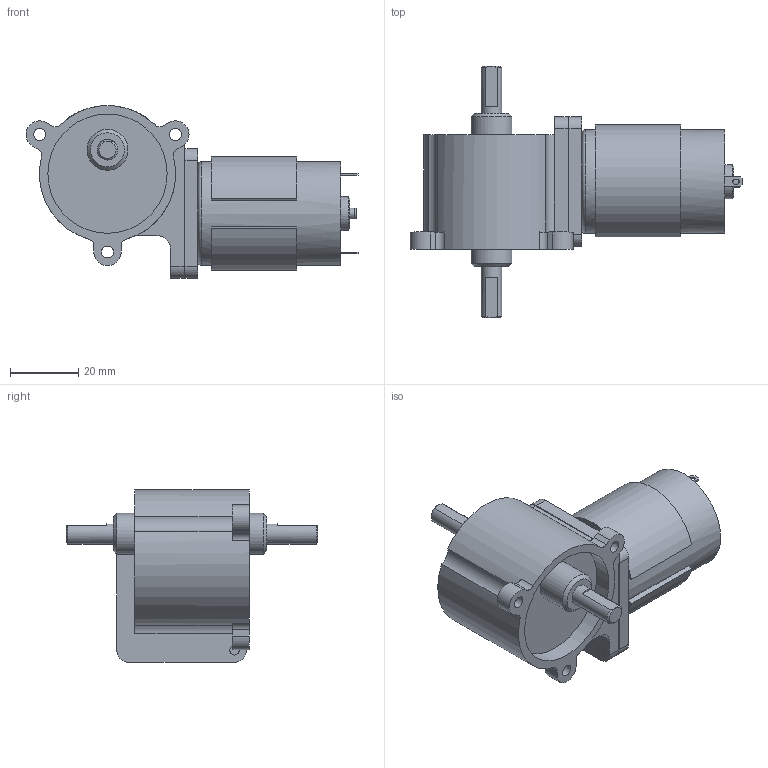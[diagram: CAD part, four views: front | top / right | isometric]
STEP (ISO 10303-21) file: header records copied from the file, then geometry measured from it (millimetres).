
FILE_DESCRIPTION(/* description */ (''),/* implementation_level */ '2;1');
FILE_NAME(/* name */ 'TP-3442#-KWR.stp',/* time_stamp */ '2023-10-26T11:20:03+09:00',/* author */ ('user'),/* organization */ (''),/* preprocessor_version */ 'ST-DEVELOPER v19.2',/* originating_system */ 'Autodesk Inventor 2024',/* authorisation */ '');
FILE_SCHEMA (('AUTOMOTIVE_DESIGN { 1 0 10303 214 3 1 1 }'));
Length unit declared in the file: millimetre
Products named in the file (3): TP-3442#-KWR-J00-24; kwr; TP-3442#(RS-435PV)
Assembly tree (2 placements, depth 2):
  TP-3442#-KWR-J00-24
    kwr
    TP-3442#(RS-435PV)
Bounding box: 97.42 x 73.9 x 50.63 mm (x, y, z)
Volume: 86468.1 mm3; surface area: 18330.1 mm2
Topology: 2 solids, 2 shells, 197 faces, 465 edges, 304 vertices
Faces by surface type: plane 98, cylinder 80, cone 10, torus 9
Full cylindrical faces by diameter (mm): 1.5 x1, 2 x2, 2.459 x2, 2.5 x1, 2.6 x4, 2.75 x2, 3.17 x2, 3.5 x3, 6 x4, 8 x1, 8.3 x1, 9.9 x1, 10 x2, 12 x2, 29.4 x1, 30.4 x1, 35 x1
Entity records: 5942 total; most frequent: DIRECTION 1069, CARTESIAN_POINT 977, ORIENTED_EDGE 926, EDGE_CURVE 463, AXIS2_PLACEMENT_3D 408, VERTEX_POINT 304, LINE 253, VECTOR 253
